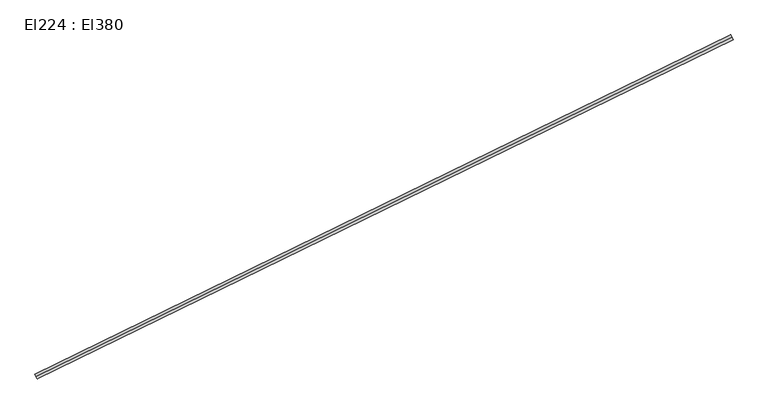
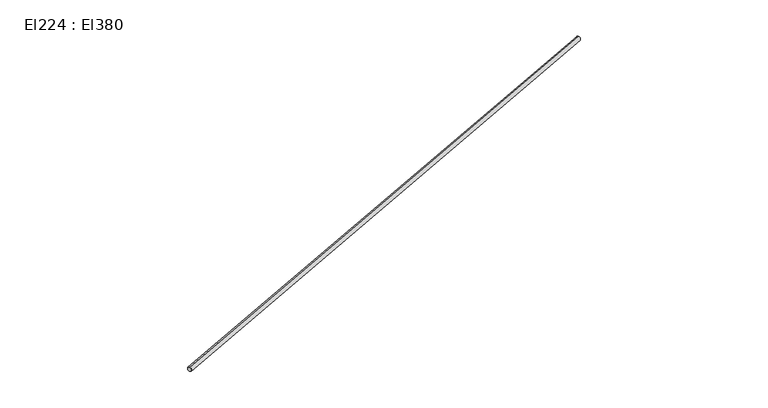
"""IFC4 building model written with IfcOpenShell, lengths in millimetres: cable carrier segment geometry, El224 : El380."""

import ifcopenshell
import ifcopenshell.guid

model = None  # the IFC model being written
_history = None  # IfcOwnerHistory: only IFC2X3 demands one
_inside = {}  # id of a spatial element -> (the spatial element, [elements in it])
_under = {}  # id of a project, library or spatial element -> (it, [spatial elements below it])
_declared = {}  # id of a project -> (the project, [libraries it declares])
_typed = {}  # id of a type object -> (the type object, [elements of that type])
_made_of = {}  # id of a material, layer set ... -> (it, [elements and type objects made of it])


def new_model(schema):
    """Start an empty IFC model of exactly this schema.

    Asked for "IFC4X3", IfcOpenShell would pick the latest addendum, in which some entities
    have other attributes; the version numbers below select the first issue.
    IFC2X3 requires an IfcOwnerHistory on every rooted entity: one is made here for all.
    """
    global model, _history
    if schema == "IFC4X3":
        model = ifcopenshell.file(schema_version=(4, 3, 0, 0))
    else:
        model = ifcopenshell.file(schema=schema)
    _inside.clear()
    _under.clear()
    _declared.clear()
    _typed.clear()
    _made_of.clear()
    _history = None
    if model.schema == "IFC2X3":
        org = make("IfcOrganization", Name="unknown")
        user = make(
            "IfcPersonAndOrganization",
            ThePerson=make("IfcPerson", FamilyName="unknown"),
            TheOrganization=org,
        )
        app = make(
            "IfcApplication",
            ApplicationDeveloper=org,
            Version="unknown",
            ApplicationFullName="unknown",
            ApplicationIdentifier="unknown",
        )
        _history = make(
            "IfcOwnerHistory",
            OwningUser=user,
            OwningApplication=app,
            ChangeAction="ADDED",
            CreationDate=0,
        )
    return model


def make(cls, **values):
    """One entity of the class cls with the attributes given. An attribute that is None is left unset."""
    return model.create_entity(
        cls, **{name: value for name, value in values.items() if value is not None}
    )


def rooted(cls, **values):
    """An entity with a GlobalId (a new one), such as an element, a storey or a relation."""
    return make(cls, GlobalId=ifcopenshell.guid.new(), OwnerHistory=_history, **values)


def si_unit(unit_type, name, prefix=None):
    """IfcSIUnit, for example si_unit("LENGTHUNIT", "METRE", prefix="MILLI")."""
    return make("IfcSIUnit", UnitType=unit_type, Prefix=prefix, Name=name)


def assignment(units):
    """IfcUnitAssignment: the units of a project."""
    return None if units is None else make("IfcUnitAssignment", Units=units)


def point(xyz):
    """IfcCartesianPoint."""
    return None if xyz is None else make("IfcCartesianPoint", Coordinates=xyz)


def direction(xyz):
    """IfcDirection."""
    return None if xyz is None else make("IfcDirection", DirectionRatios=xyz)


def frame(location, z_axis=None, x_axis=None):
    """IfcAxis2Placement3D, a coordinate frame: its origin and axes. An axis left out is left unset."""
    return make(
        "IfcAxis2Placement3D",
        Location=point(location),
        Axis=direction(z_axis),
        RefDirection=direction(x_axis),
    )


def frame_2d(location, x_axis=None):
    """IfcAxis2Placement2D, a coordinate frame in the plane: its origin and x axis."""
    return make(
        "IfcAxis2Placement2D", Location=point(location), RefDirection=direction(x_axis)
    )


def origin():
    """The frame at (0, 0, 0) with its axes left unset."""
    return frame((0.0, 0.0, 0.0))


def place(relative_to, where):
    """IfcLocalPlacement: puts the frame where relative to a parent placement (None: the world)."""
    return make(
        "IfcLocalPlacement", PlacementRelTo=relative_to, RelativePlacement=where
    )


def context(
    kind, dimensions, precision=None, world=None, true_north=None, identifier=None
):
    """IfcGeometricRepresentationContext, for example the 3D "Model" context."""
    return make(
        "IfcGeometricRepresentationContext",
        ContextIdentifier=identifier,
        ContextType=kind,
        CoordinateSpaceDimension=dimensions,
        Precision=precision,
        WorldCoordinateSystem=world,
        TrueNorth=true_north,
    )


def project(units=None, contexts=None):
    """IfcProject with its units and contexts."""
    return rooted(
        "IfcProject",
        Name="project",
        RepresentationContexts=contexts,
        UnitsInContext=assignment(units),
    )


def spatial(cls, under=None, at=None, **own):
    """A site, building, storey or space (cls), placed at a placement, below another one or the project."""
    s = rooted(cls, ObjectPlacement=at, **own)
    if under is not None:
        _under.setdefault(under.id(), (under, []))[1].append(s)
    return s


def circle_curve(where, radius):
    """IfcCircle in the frame where."""
    return make("IfcCircle", Position=where, Radius=radius)


def trimmed(basis, trim1, trim2, sense, master):
    """IfcTrimmedCurve: the piece of a basis curve between two trims."""
    return make(
        "IfcTrimmedCurve",
        BasisCurve=basis,
        Trim1=trim1,
        Trim2=trim2,
        SenseAgreement=sense,
        MasterRepresentation=master,
    )


def segment(curve, same_sense, transition):
    """IfcCompositeCurveSegment."""
    return make(
        "IfcCompositeCurveSegment",
        Transition=transition,
        SameSense=same_sense,
        ParentCurve=curve,
    )


def composite_curve(segments, self_intersect=None):
    """IfcCompositeCurve: segments joined end to end."""
    return make("IfcCompositeCurve", Segments=segments, SelfIntersect=self_intersect)


def outline(outer, holes=None, kind="AREA"):
    """IfcArbitraryClosedProfileDef: a profile drawn as a closed curve; with holes, ...WithVoids."""
    if holes is None:
        return make("IfcArbitraryClosedProfileDef", ProfileType=kind, OuterCurve=outer)
    return make(
        "IfcArbitraryProfileDefWithVoids",
        ProfileType=kind,
        OuterCurve=outer,
        InnerCurves=holes,
    )


def extrude(swept, where, along, depth):
    """IfcExtrudedAreaSolid: the profile swept, set in the frame where, extruded along a direction by depth."""
    return make(
        "IfcExtrudedAreaSolid",
        SweptArea=swept,
        Position=where,
        ExtrudedDirection=direction(along),
        Depth=depth,
    )


def shape(context_of_items, identifier, shape_type, items):
    """IfcShapeRepresentation: the items that make up one representation, for example the "Body"."""
    return make(
        "IfcShapeRepresentation",
        ContextOfItems=context_of_items,
        RepresentationIdentifier=identifier,
        RepresentationType=shape_type,
        Items=items,
    )


def source(mapping_origin, context_of_items, identifier, shape_type, items):
    """IfcRepresentationMap: a shape defined once, which mapped items show again and again."""
    return make(
        "IfcRepresentationMap",
        MappingOrigin=mapping_origin,
        MappedRepresentation=shape(context_of_items, identifier, shape_type, items),
    )


def transform(
    local_origin,
    x_axis=None,
    y_axis=None,
    z_axis=None,
    scale=None,
    scale2=None,
    scale3=None,
    uniform=True,
):
    """IfcCartesianTransformationOperator3D, or its non-uniform kind. x_axis, y_axis, z_axis: its Axis1, 2, 3."""
    if uniform:
        return make(
            "IfcCartesianTransformationOperator3D",
            Axis1=direction(x_axis),
            Axis2=direction(y_axis),
            LocalOrigin=point(local_origin),
            Scale=scale,
            Axis3=direction(z_axis),
        )
    return make(
        "IfcCartesianTransformationOperator3DnonUniform",
        Axis1=direction(x_axis),
        Axis2=direction(y_axis),
        LocalOrigin=point(local_origin),
        Scale=scale,
        Axis3=direction(z_axis),
        Scale2=scale2,
        Scale3=scale3,
    )


def mapped(mapping_source, mapping_target):
    """IfcMappedItem: shows the shape of a source again, moved by a transform."""
    return make(
        "IfcMappedItem", MappingSource=mapping_source, MappingTarget=mapping_target
    )


def made_of(thing, what):
    """Note that an element or type object is made of a material, layer set ...; save() writes the relation."""
    if what is not None:
        _made_of.setdefault(what.id(), (what, []))[1].append(thing)
    return thing


def element(
    cls,
    number,
    at=None,
    inside=None,
    cuts=None,
    type_object=None,
    material=None,
    context=None,
    identifier="Body",
    shape_type=None,
    held_by="IfcProductDefinitionShape",
    body=None,
    shapes=None,
    **own,
):
    """One element of the class cls, such as IfcWall. Its Tag is "e" and its number.

    at: its placement. inside: the storey or other place that contains it. cuts: it is an
    opening in that element (IfcRelVoidsElement). A single representation is given by context,
    identifier, shape_type and body (its items); several are given by shapes. held_by: the class
    of the entity that holds the representations. save() writes the other relations.
    """
    e = rooted(cls, Tag="e%d" % number, ObjectPlacement=at, **own)
    if body is not None:
        shapes = [shape(context, identifier, shape_type, body)]
    if shapes is not None:
        e.Representation = make(held_by, Representations=shapes)
    if inside is not None:
        _inside.setdefault(inside.id(), (inside, []))[1].append(e)
    if cuts is not None:
        rooted(
            "IfcRelVoidsElement", RelatingBuildingElement=cuts, RelatedOpeningElement=e
        )
    if type_object is not None:
        _typed.setdefault(type_object.id(), (type_object, []))[1].append(e)
    return made_of(e, material)


def aggregate(whole, parts):
    """IfcRelAggregates: a whole, such as a stair, and the parts it consists of."""
    return rooted("IfcRelAggregates", RelatingObject=whole, RelatedObjects=parts)


def save(model, path):
    """Write the relations noted so far, then the file.

    IfcRelAggregates (storeys below a building ...), IfcRelContainedInSpatialStructure (elements
    in a storey), IfcRelDefinesByType, IfcRelAssociatesMaterial and IfcRelDeclares: one each for
    every whole, place, type object, material and project.
    """
    for whole, parts in _under.values():
        aggregate(whole, parts)
    for where, things in _inside.values():
        rooted(
            "IfcRelContainedInSpatialStructure",
            RelatedElements=things,
            RelatingStructure=where,
        )
    for kind, things in _typed.values():
        rooted("IfcRelDefinesByType", RelatedObjects=things, RelatingType=kind)
    for what, things in _made_of.values():
        rooted("IfcRelAssociatesMaterial", RelatedObjects=things, RelatingMaterial=what)
    for by, libraries in _declared.values():
        rooted("IfcRelDeclares", RelatingContext=by, RelatedDefinitions=libraries)
    model.write(path)


def el224_el380_baf899b6(model_context):
    return source(origin(), model_context, "Body", "SweptSolid", [
        extrude(outline(composite_curve([segment(trimmed(circle_curve(frame_2d((0.0, -9.5)), 9.5), [point((0.0, -19.0))], [point((0.0, 0.0))], False, "CARTESIAN"), True, "CONTINUOUS"), segment(trimmed(circle_curve(frame_2d((0.0, -9.5)), 9.5), [point((0.0, 0.0))], [point((0.0, -19.0))], False, "CARTESIAN"), True, "CONTINUOUS")], self_intersect=False)), frame((2629.2346511, 12778.9981745, 1509.5), z_axis=(0.8986574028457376, 0.4386511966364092, 0.0), x_axis=(-0.4386511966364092, 0.8986574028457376, 0.0)), (0.0, 0.0, 1.0), 2681.01),
    ])


if __name__ == "__main__":
    model = new_model("IFC4")
    model_context = context("Model", 3, world=origin())
    ifc_project = project(units=[si_unit("LENGTHUNIT", "METRE", prefix="MILLI")], contexts=[model_context])
    site = spatial("IfcSite", under=ifc_project)
    building = spatial("IfcBuilding", under=site)
    placement = place(None, origin())
    el224_el380_shape = el224_el380_baf899b6(model_context)
    element("IfcCableCarrierSegment", 1, ObjectType="El224 : El380", at=placement, inside=building, context=model_context, shape_type="MappedRepresentation", body=[
        mapped(el224_el380_shape, transform((0.0, 0.0, 0.0), x_axis=(1.0, 0.0, 0.0), y_axis=(0.0, 1.0, 0.0), z_axis=(0.0, 0.0, 1.0))),
    ])
    save(model, "model.ifc")
